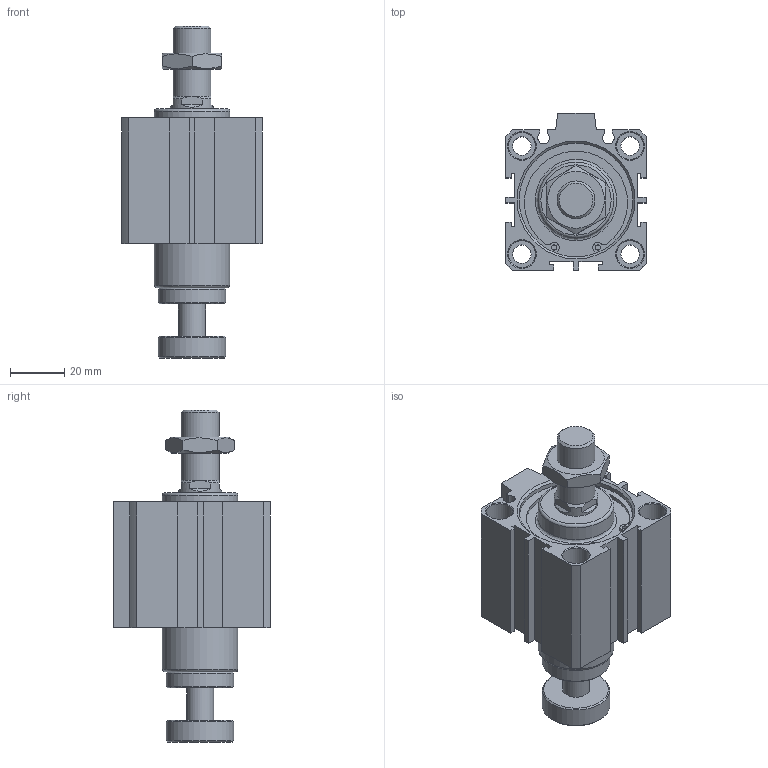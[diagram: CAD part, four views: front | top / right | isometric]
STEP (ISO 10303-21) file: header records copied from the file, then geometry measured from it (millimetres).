
FILE_DESCRIPTION((''),'2;1');
FILE_NAME('I:\3D電子目錄\氣缸\JDAR\JDAR-B\JDAR40-B\JDAR40x20-B.stp','2007-03-14T14:52:55',('662F206'),(''),'Autodesk Inventor 11','Autodesk Inventor 11','');
FILE_SCHEMA(('AUTOMOTIVE_DESIGN { 1 0 10303 214 1 1 1 1 }'));
Length unit declared in the file: millimetre
Products named in the file (3): JDAR40-B; R 形環 42
Assembly tree (3 placements, depth 2):
  JDAR40-B
    JDAR40-B
    R 形環 42  x2
Bounding box: 52 x 58 x 122.8 mm (x, y, z)
Volume: 130130.2 mm3; surface area: 34172.9 mm2
Topology: 3 solids, 3 shells, 179 faces, 418 edges, 271 vertices
Faces by surface type: plane 100, cylinder 50, cone 25, bspline 2, torus 2
Full cylindrical faces by diameter (mm): 1.9 x4, 2.2 x2, 6.8 x4, 10 x9, 14 x2, 16 x1, 25 x2, 28 x2, 42 x4, 44.5 x2
Entity records: 4585 total; most frequent: CARTESIAN_POINT 873, DIRECTION 770, ORIENTED_EDGE 654, EDGE_CURVE 327, AXIS2_PLACEMENT_3D 292, EDGE_LOOP 260, VERTEX_POINT 245, VECTOR 186
